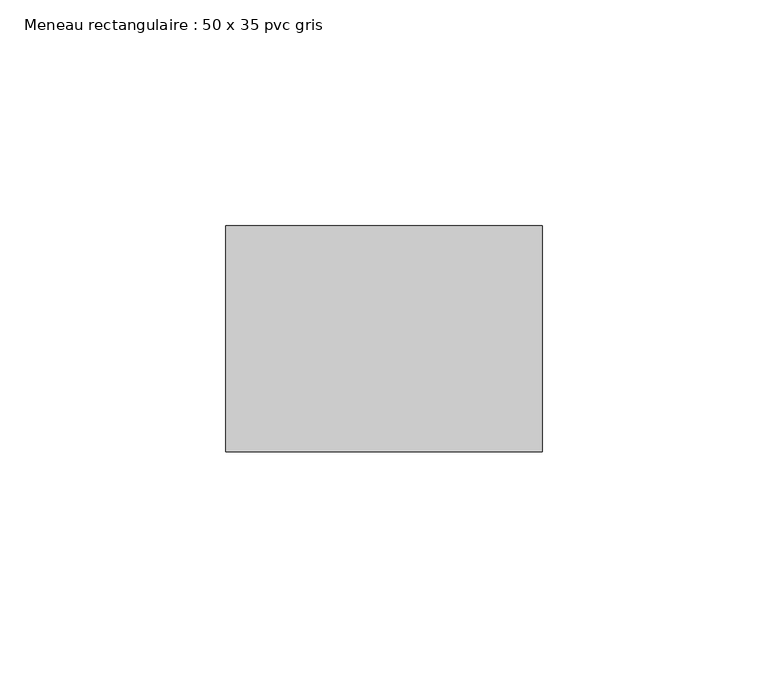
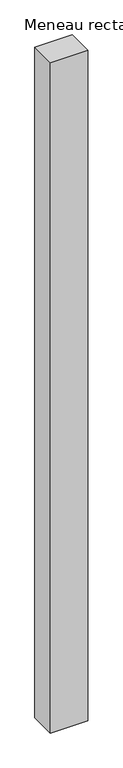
"""IFC4 building model written with IfcOpenShell, lengths in millimetres: member geometry, Meneau rectangulaire : 50 x 35 pvc gris."""

import ifcopenshell
import ifcopenshell.guid

model = None  # the IFC model being written
_history = None  # IfcOwnerHistory: only IFC2X3 demands one
_inside = {}  # id of a spatial element -> (the spatial element, [elements in it])
_under = {}  # id of a project, library or spatial element -> (it, [spatial elements below it])
_declared = {}  # id of a project -> (the project, [libraries it declares])
_typed = {}  # id of a type object -> (the type object, [elements of that type])
_made_of = {}  # id of a material, layer set ... -> (it, [elements and type objects made of it])


def new_model(schema):
    """Start an empty IFC model of exactly this schema.

    Asked for "IFC4X3", IfcOpenShell would pick the latest addendum, in which some entities
    have other attributes; the version numbers below select the first issue.
    IFC2X3 requires an IfcOwnerHistory on every rooted entity: one is made here for all.
    """
    global model, _history
    if schema == "IFC4X3":
        model = ifcopenshell.file(schema_version=(4, 3, 0, 0))
    else:
        model = ifcopenshell.file(schema=schema)
    _inside.clear()
    _under.clear()
    _declared.clear()
    _typed.clear()
    _made_of.clear()
    _history = None
    if model.schema == "IFC2X3":
        org = make("IfcOrganization", Name="unknown")
        user = make(
            "IfcPersonAndOrganization",
            ThePerson=make("IfcPerson", FamilyName="unknown"),
            TheOrganization=org,
        )
        app = make(
            "IfcApplication",
            ApplicationDeveloper=org,
            Version="unknown",
            ApplicationFullName="unknown",
            ApplicationIdentifier="unknown",
        )
        _history = make(
            "IfcOwnerHistory",
            OwningUser=user,
            OwningApplication=app,
            ChangeAction="ADDED",
            CreationDate=0,
        )
    return model


def make(cls, **values):
    """One entity of the class cls with the attributes given. An attribute that is None is left unset."""
    return model.create_entity(
        cls, **{name: value for name, value in values.items() if value is not None}
    )


def rooted(cls, **values):
    """An entity with a GlobalId (a new one), such as an element, a storey or a relation."""
    return make(cls, GlobalId=ifcopenshell.guid.new(), OwnerHistory=_history, **values)


def si_unit(unit_type, name, prefix=None):
    """IfcSIUnit, for example si_unit("LENGTHUNIT", "METRE", prefix="MILLI")."""
    return make("IfcSIUnit", UnitType=unit_type, Prefix=prefix, Name=name)


def assignment(units):
    """IfcUnitAssignment: the units of a project."""
    return None if units is None else make("IfcUnitAssignment", Units=units)


def point(xyz):
    """IfcCartesianPoint."""
    return None if xyz is None else make("IfcCartesianPoint", Coordinates=xyz)


def direction(xyz):
    """IfcDirection."""
    return None if xyz is None else make("IfcDirection", DirectionRatios=xyz)


def frame(location, z_axis=None, x_axis=None):
    """IfcAxis2Placement3D, a coordinate frame: its origin and axes. An axis left out is left unset."""
    return make(
        "IfcAxis2Placement3D",
        Location=point(location),
        Axis=direction(z_axis),
        RefDirection=direction(x_axis),
    )


def origin():
    """The frame at (0, 0, 0) with its axes left unset."""
    return frame((0.0, 0.0, 0.0))


def place(relative_to, where):
    """IfcLocalPlacement: puts the frame where relative to a parent placement (None: the world)."""
    return make(
        "IfcLocalPlacement", PlacementRelTo=relative_to, RelativePlacement=where
    )


def context(
    kind, dimensions, precision=None, world=None, true_north=None, identifier=None
):
    """IfcGeometricRepresentationContext, for example the 3D "Model" context."""
    return make(
        "IfcGeometricRepresentationContext",
        ContextIdentifier=identifier,
        ContextType=kind,
        CoordinateSpaceDimension=dimensions,
        Precision=precision,
        WorldCoordinateSystem=world,
        TrueNorth=true_north,
    )


def project(units=None, contexts=None):
    """IfcProject with its units and contexts."""
    return rooted(
        "IfcProject",
        Name="project",
        RepresentationContexts=contexts,
        UnitsInContext=assignment(units),
    )


def spatial(cls, under=None, at=None, **own):
    """A site, building, storey or space (cls), placed at a placement, below another one or the project."""
    s = rooted(cls, ObjectPlacement=at, **own)
    if under is not None:
        _under.setdefault(under.id(), (under, []))[1].append(s)
    return s


def polyline(points):
    """IfcPolyline through the points."""
    return make("IfcPolyline", Points=[point(p) for p in points])


def outline(outer, holes=None, kind="AREA"):
    """IfcArbitraryClosedProfileDef: a profile drawn as a closed curve; with holes, ...WithVoids."""
    if holes is None:
        return make("IfcArbitraryClosedProfileDef", ProfileType=kind, OuterCurve=outer)
    return make(
        "IfcArbitraryProfileDefWithVoids",
        ProfileType=kind,
        OuterCurve=outer,
        InnerCurves=holes,
    )


def extrude(swept, where, along, depth):
    """IfcExtrudedAreaSolid: the profile swept, set in the frame where, extruded along a direction by depth."""
    return make(
        "IfcExtrudedAreaSolid",
        SweptArea=swept,
        Position=where,
        ExtrudedDirection=direction(along),
        Depth=depth,
    )


def shape(context_of_items, identifier, shape_type, items):
    """IfcShapeRepresentation: the items that make up one representation, for example the "Body"."""
    return make(
        "IfcShapeRepresentation",
        ContextOfItems=context_of_items,
        RepresentationIdentifier=identifier,
        RepresentationType=shape_type,
        Items=items,
    )


def source(mapping_origin, context_of_items, identifier, shape_type, items):
    """IfcRepresentationMap: a shape defined once, which mapped items show again and again."""
    return make(
        "IfcRepresentationMap",
        MappingOrigin=mapping_origin,
        MappedRepresentation=shape(context_of_items, identifier, shape_type, items),
    )


def transform(
    local_origin,
    x_axis=None,
    y_axis=None,
    z_axis=None,
    scale=None,
    scale2=None,
    scale3=None,
    uniform=True,
):
    """IfcCartesianTransformationOperator3D, or its non-uniform kind. x_axis, y_axis, z_axis: its Axis1, 2, 3."""
    if uniform:
        return make(
            "IfcCartesianTransformationOperator3D",
            Axis1=direction(x_axis),
            Axis2=direction(y_axis),
            LocalOrigin=point(local_origin),
            Scale=scale,
            Axis3=direction(z_axis),
        )
    return make(
        "IfcCartesianTransformationOperator3DnonUniform",
        Axis1=direction(x_axis),
        Axis2=direction(y_axis),
        LocalOrigin=point(local_origin),
        Scale=scale,
        Axis3=direction(z_axis),
        Scale2=scale2,
        Scale3=scale3,
    )


def mapped(mapping_source, mapping_target):
    """IfcMappedItem: shows the shape of a source again, moved by a transform."""
    return make(
        "IfcMappedItem", MappingSource=mapping_source, MappingTarget=mapping_target
    )


def made_of(thing, what):
    """Note that an element or type object is made of a material, layer set ...; save() writes the relation."""
    if what is not None:
        _made_of.setdefault(what.id(), (what, []))[1].append(thing)
    return thing


def element(
    cls,
    number,
    at=None,
    inside=None,
    cuts=None,
    type_object=None,
    material=None,
    context=None,
    identifier="Body",
    shape_type=None,
    held_by="IfcProductDefinitionShape",
    body=None,
    shapes=None,
    **own,
):
    """One element of the class cls, such as IfcWall. Its Tag is "e" and its number.

    at: its placement. inside: the storey or other place that contains it. cuts: it is an
    opening in that element (IfcRelVoidsElement). A single representation is given by context,
    identifier, shape_type and body (its items); several are given by shapes. held_by: the class
    of the entity that holds the representations. save() writes the other relations.
    """
    e = rooted(cls, Tag="e%d" % number, ObjectPlacement=at, **own)
    if body is not None:
        shapes = [shape(context, identifier, shape_type, body)]
    if shapes is not None:
        e.Representation = make(held_by, Representations=shapes)
    if inside is not None:
        _inside.setdefault(inside.id(), (inside, []))[1].append(e)
    if cuts is not None:
        rooted(
            "IfcRelVoidsElement", RelatingBuildingElement=cuts, RelatedOpeningElement=e
        )
    if type_object is not None:
        _typed.setdefault(type_object.id(), (type_object, []))[1].append(e)
    return made_of(e, material)


def aggregate(whole, parts):
    """IfcRelAggregates: a whole, such as a stair, and the parts it consists of."""
    return rooted("IfcRelAggregates", RelatingObject=whole, RelatedObjects=parts)


def save(model, path):
    """Write the relations noted so far, then the file.

    IfcRelAggregates (storeys below a building ...), IfcRelContainedInSpatialStructure (elements
    in a storey), IfcRelDefinesByType, IfcRelAssociatesMaterial and IfcRelDeclares: one each for
    every whole, place, type object, material and project.
    """
    for whole, parts in _under.values():
        aggregate(whole, parts)
    for where, things in _inside.values():
        rooted(
            "IfcRelContainedInSpatialStructure",
            RelatedElements=things,
            RelatingStructure=where,
        )
    for kind, things in _typed.values():
        rooted("IfcRelDefinesByType", RelatedObjects=things, RelatingType=kind)
    for what, things in _made_of.values():
        rooted("IfcRelAssociatesMaterial", RelatedObjects=things, RelatingMaterial=what)
    for by, libraries in _declared.values():
        rooted("IfcRelDeclares", RelatingContext=by, RelatedDefinitions=libraries)
    model.write(path)


def meneau_rectangulaire_50_x_35_pvc_gris_591dd268(model_context):
    return source(origin(), model_context, "Body", "SweptSolid", [
        extrude(outline(polyline([(0.0, 0.0), (0.0, -50.0), (-70.0, -50.0), (-70.0, 0.0), (0.0, 0.0)])), frame((0.0, 0.0, -1320.0), z_axis=(0.0, 0.0, 1.0), x_axis=(1.0, 0.0, 0.0)), (0.0, 0.0, 1.0), 1320.0),
    ])


if __name__ == "__main__":
    model = new_model("IFC4")
    model_context = context("Model", 3, world=origin())
    ifc_project = project(units=[si_unit("LENGTHUNIT", "METRE", prefix="MILLI")], contexts=[model_context])
    site = spatial("IfcSite", under=ifc_project)
    building = spatial("IfcBuilding", under=site)
    placement = place(None, origin())
    meneau_rectangulaire_50_x_35_pvc_gris_shape = meneau_rectangulaire_50_x_35_pvc_gris_591dd268(model_context)
    element("IfcMember", 1, ObjectType="Meneau rectangulaire : 50 x 35 pvc gris", at=placement, inside=building, context=model_context, shape_type="MappedRepresentation", body=[
        mapped(meneau_rectangulaire_50_x_35_pvc_gris_shape, transform((0.0, 0.0, 0.0), x_axis=(1.0, 0.0, 0.0), y_axis=(0.0, 1.0, 0.0), z_axis=(0.0, 0.0, 1.0))),
    ])
    save(model, "model.ifc")
